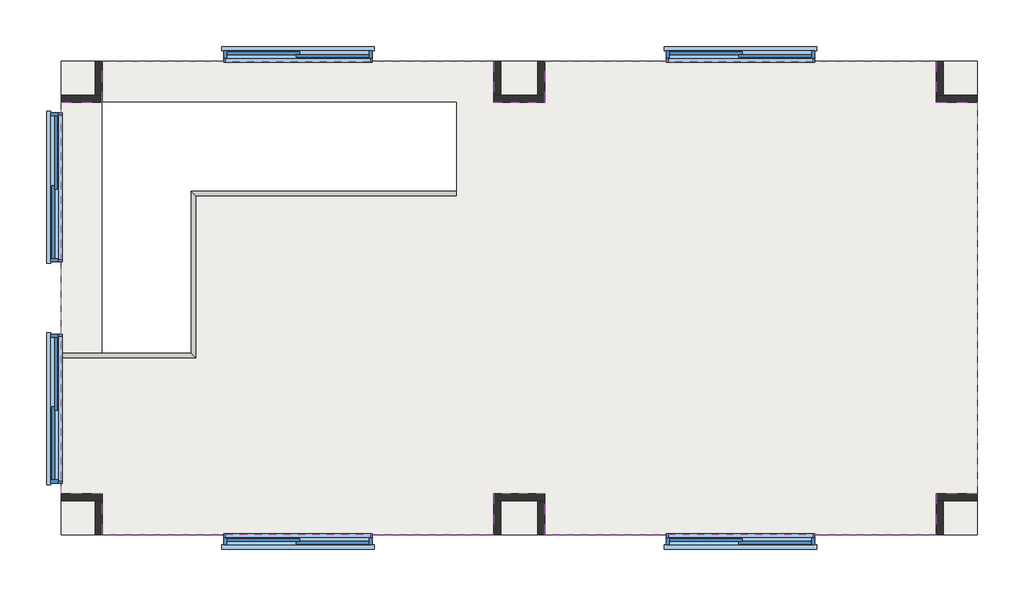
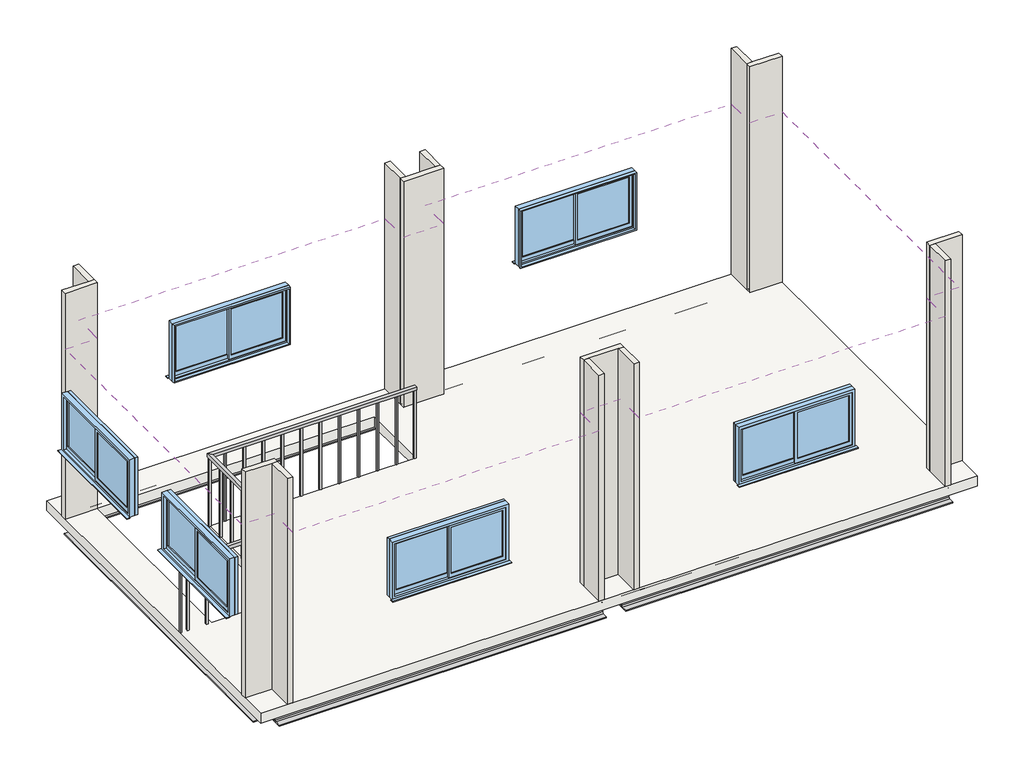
# One storey: 14 walls, 7 beams, 6 windows, 1 covering, 1 railing, 1 slab.
"""IFC4 building model written with IfcOpenShell, lengths in millimetres."""

import ifcopenshell
import ifcopenshell.guid

model = None  # the IFC model being written
_history = None  # IfcOwnerHistory: only IFC2X3 demands one
_inside = {}  # id of a spatial element -> (the spatial element, [elements in it])
_under = {}  # id of a project, library or spatial element -> (it, [spatial elements below it])
_declared = {}  # id of a project -> (the project, [libraries it declares])
_typed = {}  # id of a type object -> (the type object, [elements of that type])
_made_of = {}  # id of a material, layer set ... -> (it, [elements and type objects made of it])


def new_model(schema):
    """Start an empty IFC model of exactly this schema.

    Asked for "IFC4X3", IfcOpenShell would pick the latest addendum, in which some entities
    have other attributes; the version numbers below select the first issue.
    IFC2X3 requires an IfcOwnerHistory on every rooted entity: one is made here for all.
    """
    global model, _history
    if schema == "IFC4X3":
        model = ifcopenshell.file(schema_version=(4, 3, 0, 0))
    else:
        model = ifcopenshell.file(schema=schema)
    _inside.clear()
    _under.clear()
    _declared.clear()
    _typed.clear()
    _made_of.clear()
    _history = None
    if model.schema == "IFC2X3":
        org = make("IfcOrganization", Name="unknown")
        user = make(
            "IfcPersonAndOrganization",
            ThePerson=make("IfcPerson", FamilyName="unknown"),
            TheOrganization=org,
        )
        app = make(
            "IfcApplication",
            ApplicationDeveloper=org,
            Version="unknown",
            ApplicationFullName="unknown",
            ApplicationIdentifier="unknown",
        )
        _history = make(
            "IfcOwnerHistory",
            OwningUser=user,
            OwningApplication=app,
            ChangeAction="ADDED",
            CreationDate=0,
        )
    return model


def make(cls, **values):
    """One entity of the class cls with the attributes given. An attribute that is None is left unset."""
    return model.create_entity(
        cls, **{name: value for name, value in values.items() if value is not None}
    )


def rooted(cls, **values):
    """An entity with a GlobalId (a new one), such as an element, a storey or a relation."""
    return make(cls, GlobalId=ifcopenshell.guid.new(), OwnerHistory=_history, **values)


def si_unit(unit_type, name, prefix=None):
    """IfcSIUnit, for example si_unit("LENGTHUNIT", "METRE", prefix="MILLI")."""
    return make("IfcSIUnit", UnitType=unit_type, Prefix=prefix, Name=name)


def assignment(units):
    """IfcUnitAssignment: the units of a project."""
    return None if units is None else make("IfcUnitAssignment", Units=units)


def point(xyz):
    """IfcCartesianPoint."""
    return None if xyz is None else make("IfcCartesianPoint", Coordinates=xyz)


def direction(xyz):
    """IfcDirection."""
    return None if xyz is None else make("IfcDirection", DirectionRatios=xyz)


def frame(location, z_axis=None, x_axis=None):
    """IfcAxis2Placement3D, a coordinate frame: its origin and axes. An axis left out is left unset."""
    return make(
        "IfcAxis2Placement3D",
        Location=point(location),
        Axis=direction(z_axis),
        RefDirection=direction(x_axis),
    )


def frame_2d(location, x_axis=None):
    """IfcAxis2Placement2D, a coordinate frame in the plane: its origin and x axis."""
    return make(
        "IfcAxis2Placement2D", Location=point(location), RefDirection=direction(x_axis)
    )


def origin():
    """The frame at (0, 0, 0) with its axes left unset."""
    return frame((0.0, 0.0, 0.0))


def place(relative_to, where):
    """IfcLocalPlacement: puts the frame where relative to a parent placement (None: the world)."""
    return make(
        "IfcLocalPlacement", PlacementRelTo=relative_to, RelativePlacement=where
    )


def context(
    kind, dimensions, precision=None, world=None, true_north=None, identifier=None
):
    """IfcGeometricRepresentationContext, for example the 3D "Model" context."""
    return make(
        "IfcGeometricRepresentationContext",
        ContextIdentifier=identifier,
        ContextType=kind,
        CoordinateSpaceDimension=dimensions,
        Precision=precision,
        WorldCoordinateSystem=world,
        TrueNorth=true_north,
    )


def project(units=None, contexts=None):
    """IfcProject with its units and contexts."""
    return rooted(
        "IfcProject",
        Name="project",
        RepresentationContexts=contexts,
        UnitsInContext=assignment(units),
    )


def spatial(cls, under=None, at=None, **own):
    """A site, building, storey or space (cls), placed at a placement, below another one or the project."""
    s = rooted(cls, ObjectPlacement=at, **own)
    if under is not None:
        _under.setdefault(under.id(), (under, []))[1].append(s)
    return s


def polyline(points):
    """IfcPolyline through the points."""
    return make("IfcPolyline", Points=[point(p) for p in points])


def circle_curve(where, radius):
    """IfcCircle in the frame where."""
    return make("IfcCircle", Position=where, Radius=radius)


def trimmed(basis, trim1, trim2, sense, master):
    """IfcTrimmedCurve: the piece of a basis curve between two trims."""
    return make(
        "IfcTrimmedCurve",
        BasisCurve=basis,
        Trim1=trim1,
        Trim2=trim2,
        SenseAgreement=sense,
        MasterRepresentation=master,
    )


def segment(curve, same_sense, transition):
    """IfcCompositeCurveSegment."""
    return make(
        "IfcCompositeCurveSegment",
        Transition=transition,
        SameSense=same_sense,
        ParentCurve=curve,
    )


def composite_curve(segments, self_intersect=None):
    """IfcCompositeCurve: segments joined end to end."""
    return make("IfcCompositeCurve", Segments=segments, SelfIntersect=self_intersect)


def outline(outer, holes=None, kind="AREA"):
    """IfcArbitraryClosedProfileDef: a profile drawn as a closed curve; with holes, ...WithVoids."""
    if holes is None:
        return make("IfcArbitraryClosedProfileDef", ProfileType=kind, OuterCurve=outer)
    return make(
        "IfcArbitraryProfileDefWithVoids",
        ProfileType=kind,
        OuterCurve=outer,
        InnerCurves=holes,
    )


def extrude(swept, where, along, depth):
    """IfcExtrudedAreaSolid: the profile swept, set in the frame where, extruded along a direction by depth."""
    return make(
        "IfcExtrudedAreaSolid",
        SweptArea=swept,
        Position=where,
        ExtrudedDirection=direction(along),
        Depth=depth,
    )


def faces_of(points, faces, orient=None, outer=None):
    """IfcFace entities. A face is a list of loops; a loop is a list of indices into points, from 0.

    orient and outer hold one flag for each loop. By default every Orientation is true, the
    first loop of a face is its IfcFaceOuterBound and the others are IfcFaceBound.
    """
    made = []
    for i, loops in enumerate(faces):
        bounds = []
        for j, loop in enumerate(loops):
            is_outer = j == 0 if outer is None else outer[i][j]
            bounds.append(
                make(
                    "IfcFaceOuterBound" if is_outer else "IfcFaceBound",
                    Bound=make("IfcPolyLoop", Polygon=[points[k] for k in loop]),
                    Orientation=True if orient is None else orient[i][j],
                )
            )
        made.append(make("IfcFace", Bounds=bounds))
    return made


def faceted_brep(points, faces, orient=None, outer=None, voids=None):
    """IfcFacetedBrep: a solid bounded by flat faces; with voids (closed shells), ...WithVoids."""
    shared = [point(p) for p in points]
    hull = make("IfcClosedShell", CfsFaces=faces_of(shared, faces, orient, outer))
    if voids is None:
        return make("IfcFacetedBrep", Outer=hull)
    return make(
        "IfcFacetedBrepWithVoids",
        Outer=hull,
        Voids=[
            make(cls, CfsFaces=faces_of(shared, fs, o, b)) for cls, fs, o, b in voids
        ],
    )


def shape(context_of_items, identifier, shape_type, items):
    """IfcShapeRepresentation: the items that make up one representation, for example the "Body"."""
    return make(
        "IfcShapeRepresentation",
        ContextOfItems=context_of_items,
        RepresentationIdentifier=identifier,
        RepresentationType=shape_type,
        Items=items,
    )


def source(mapping_origin, context_of_items, identifier, shape_type, items):
    """IfcRepresentationMap: a shape defined once, which mapped items show again and again."""
    return make(
        "IfcRepresentationMap",
        MappingOrigin=mapping_origin,
        MappedRepresentation=shape(context_of_items, identifier, shape_type, items),
    )


def transform(
    local_origin,
    x_axis=None,
    y_axis=None,
    z_axis=None,
    scale=None,
    scale2=None,
    scale3=None,
    uniform=True,
):
    """IfcCartesianTransformationOperator3D, or its non-uniform kind. x_axis, y_axis, z_axis: its Axis1, 2, 3."""
    if uniform:
        return make(
            "IfcCartesianTransformationOperator3D",
            Axis1=direction(x_axis),
            Axis2=direction(y_axis),
            LocalOrigin=point(local_origin),
            Scale=scale,
            Axis3=direction(z_axis),
        )
    return make(
        "IfcCartesianTransformationOperator3DnonUniform",
        Axis1=direction(x_axis),
        Axis2=direction(y_axis),
        LocalOrigin=point(local_origin),
        Scale=scale,
        Axis3=direction(z_axis),
        Scale2=scale2,
        Scale3=scale3,
    )


def mapped(mapping_source, mapping_target):
    """IfcMappedItem: shows the shape of a source again, moved by a transform."""
    return make(
        "IfcMappedItem", MappingSource=mapping_source, MappingTarget=mapping_target
    )


def made_of(thing, what):
    """Note that an element or type object is made of a material, layer set ...; save() writes the relation."""
    if what is not None:
        _made_of.setdefault(what.id(), (what, []))[1].append(thing)
    return thing


def element(
    cls,
    number,
    at=None,
    inside=None,
    cuts=None,
    type_object=None,
    material=None,
    context=None,
    identifier="Body",
    shape_type=None,
    held_by="IfcProductDefinitionShape",
    body=None,
    shapes=None,
    **own,
):
    """One element of the class cls, such as IfcWall. Its Tag is "e" and its number.

    at: its placement. inside: the storey or other place that contains it. cuts: it is an
    opening in that element (IfcRelVoidsElement). A single representation is given by context,
    identifier, shape_type and body (its items); several are given by shapes. held_by: the class
    of the entity that holds the representations. save() writes the other relations.
    """
    e = rooted(cls, Tag="e%d" % number, ObjectPlacement=at, **own)
    if body is not None:
        shapes = [shape(context, identifier, shape_type, body)]
    if shapes is not None:
        e.Representation = make(held_by, Representations=shapes)
    if inside is not None:
        _inside.setdefault(inside.id(), (inside, []))[1].append(e)
    if cuts is not None:
        rooted(
            "IfcRelVoidsElement", RelatingBuildingElement=cuts, RelatedOpeningElement=e
        )
    if type_object is not None:
        _typed.setdefault(type_object.id(), (type_object, []))[1].append(e)
    return made_of(e, material)


def aggregate(whole, parts):
    """IfcRelAggregates: a whole, such as a stair, and the parts it consists of."""
    return rooted("IfcRelAggregates", RelatingObject=whole, RelatedObjects=parts)


def save(model, path):
    """Write the relations noted so far, then the file.

    IfcRelAggregates (storeys below a building ...), IfcRelContainedInSpatialStructure (elements
    in a storey), IfcRelDefinesByType, IfcRelAssociatesMaterial and IfcRelDeclares: one each for
    every whole, place, type object, material and project.
    """
    for whole, parts in _under.values():
        aggregate(whole, parts)
    for where, things in _inside.values():
        rooted(
            "IfcRelContainedInSpatialStructure",
            RelatedElements=things,
            RelatingStructure=where,
        )
    for kind, things in _typed.values():
        rooted("IfcRelDefinesByType", RelatedObjects=things, RelatingType=kind)
    for what, things in _made_of.values():
        rooted("IfcRelAssociatesMaterial", RelatedObjects=things, RelatingMaterial=what)
    for by, libraries in _declared.values():
        rooted("IfcRelDeclares", RelatingContext=by, RelatedDefinitions=libraries)
    model.write(path)


def heb200_d26bcb9a(model_context):
    return source(origin(), model_context, "Body", "SweptSolid", [
        extrude(outline(composite_curve([segment(polyline([(100.0, -85.0), (100.0, -100.0), (-100.0, -100.0), (-100.0, -85.0), (-22.5, -85.0)]), True, "CONTINUOUS"), segment(trimmed(circle_curve(frame_2d((-22.5, -67.0)), 18.0), [point((-22.5, -85.0))], [point((-4.5, -67.0))], True, "CARTESIAN"), True, "CONTINUOUS"), segment(polyline([(-4.5, -67.0), (-4.5, 67.0)]), True, "CONTINUOUS"), segment(trimmed(circle_curve(frame_2d((-22.5, 67.0)), 18.0), [point((-4.5, 67.0))], [point((-22.5, 85.0))], True, "CARTESIAN"), True, "CONTINUOUS"), segment(polyline([(-22.5, 85.0), (-100.0, 85.0), (-100.0, 100.0), (100.0, 100.0), (100.0, 85.0), (22.5, 85.0)]), True, "CONTINUOUS"), segment(trimmed(circle_curve(frame_2d((22.5, 67.0)), 18.0), [point((22.5, 85.0))], [point((4.5, 67.0))], True, "CARTESIAN"), True, "CONTINUOUS"), segment(polyline([(4.5, 67.0), (4.5, -67.0)]), True, "CONTINUOUS"), segment(trimmed(circle_curve(frame_2d((22.5, -67.0)), 18.0), [point((4.5, -67.0))], [point((22.5, -85.0))], True, "CARTESIAN"), True, "CONTINUOUS"), segment(polyline([(22.5, -85.0), (100.0, -85.0)]), True, "CONTINUOUS")], self_intersect=False)), frame((-2362.3, 0.0, 0.0), z_axis=(1.0, 0.0, 0.0), x_axis=(0.0, 1.0, 0.0)), (0.0, 0.0, 1.0), 4724.6),
    ])


def w1600h0800_d7cd19be(model_context):
    return source(origin(), model_context, "Body", "SweptSolid", [
        extrude(outline(polyline([(-20.0, 12.5), (-760.0, 12.5), (-760.0, 17.5), (-20.0, 17.5), (-20.0, 12.5)])), frame((0.0, 0.0, 1260.0), z_axis=(0.0, 0.0, 1.0), x_axis=(1.0, 0.0, 0.0)), (0.0, 0.0, 1.0), 700.0),
        extrude(outline(polyline([(760.0, -17.5), (20.0, -17.5), (20.0, -12.5), (760.0, -12.5), (760.0, -17.5)])), frame((0.0, 0.0, 1260.0), z_axis=(0.0, 0.0, 1.0), x_axis=(1.0, 0.0, 0.0)), (0.0, 0.0, 1.0), 700.0),
        extrude(outline(polyline([(2000.0, -20.0), (1200.0, -20.0), (1200.0, 800.0), (2000.0, 800.0), (2000.0, -20.0)]), holes=[polyline([(1260.0, 760.0), (1260.0, 20.0), (1960.0, 20.0), (1960.0, 760.0), (1260.0, 760.0)])]), frame((0.0, -30.0, 0.0), z_axis=(0.0, 1.0, 0.0), x_axis=(0.0, 0.0, 1.0)), (0.0, 0.0, 1.0), 30.0),
        extrude(outline(polyline([(2000.0, -800.0), (1200.0, -800.0), (1200.0, 20.0), (2000.0, 20.0), (2000.0, -800.0)]), holes=[polyline([(1260.0, -20.0), (1260.0, -760.0), (1960.0, -760.0), (1960.0, -20.0), (1260.0, -20.0)])]), frame((0.0, 0.0, 0.0), z_axis=(0.0, 1.0, 0.0), x_axis=(0.0, 0.0, 1.0)), (0.0, 0.0, 1.0), 30.0),
        extrude(outline(polyline([(860.0, 90.0), (860.0, 40.0), (-860.0, 40.0), (-860.0, 90.0), (860.0, 90.0)])), frame((0.0, 0.0, 1160.0), z_axis=(0.0, 0.0, 1.0), x_axis=(1.0, 0.0, 0.0)), (0.0, 0.0, 1.0), 10.0),
        extrude(outline(polyline([(2040.0, 840.0), (2040.0, -840.0), (1160.0, -840.0), (1160.0, 840.0), (2040.0, 840.0)]), holes=[polyline([(1180.0, -820.0), (2020.0, -820.0), (2020.0, 820.0), (1180.0, 820.0), (1180.0, -820.0)])]), frame((0.0, -85.0, 0.0), z_axis=(0.0, 1.0, 0.0), x_axis=(0.0, 0.0, 1.0)), (0.0, 0.0, 1.0), 45.0),
        extrude(outline(polyline([(2040.0, -840.0), (1160.0, -840.0), (1160.0, 840.0), (2040.0, 840.0), (2040.0, -840.0)]), holes=[polyline([(2000.0, 800.0), (1200.0, 800.0), (1200.0, -800.0), (2000.0, -800.0), (2000.0, 800.0)])]), frame((0.0, -40.0, 0.0), z_axis=(0.0, 1.0, 0.0), x_axis=(0.0, 0.0, 1.0)), (0.0, 0.0, 1.0), 80.0),
    ])


model = new_model("IFC4")

# Units and contexts
model_context = context("Model", 3, world=origin())
ifc_project = project(units=[si_unit("LENGTHUNIT", "METRE", prefix="MILLI")], contexts=[model_context])

# Site, building, storey
site = spatial("IfcSite", under=ifc_project)
building = spatial("IfcBuilding", under=site)
storey = spatial("IfcBuildingStorey", under=building, Name="2階", Elevation=3800.0)

# Beams
placement = place(None, origin())
heb200_shape = heb200_d26bcb9a(model_context)
element("IfcBeam", 1, ObjectType="HE-B : HEB200", at=placement, inside=storey, context=model_context, shape_type="MappedRepresentation", body=[
    mapped(heb200_shape, transform((-5047.3880564, 86.0382733, 3550.0), x_axis=(0.0, -1.0, 0.0), y_axis=(1.0, 0.0, 0.0), z_axis=(0.0, 0.0, 1.0))),
])
element("IfcBeam", 2, ObjectType="HE-B : HEB200", at=placement, inside=storey, context=model_context, shape_type="MappedRepresentation", body=[
    mapped(heb200_shape, transform((-47.3880564, 86.0382733, 3550.0), x_axis=(0.0, -1.0, 0.0), y_axis=(1.0, 0.0, 0.0), z_axis=(0.0, 0.0, 1.0))),
])
element("IfcBeam", 3, ObjectType="HE-B : HEB200", at=placement, inside=storey, context=model_context, shape_type="MappedRepresentation", body=[
    mapped(heb200_shape, transform((4952.6119436, 86.0382733, 3550.0), x_axis=(0.0, -1.0, 0.0), y_axis=(1.0, 0.0, 0.0), z_axis=(0.0, 0.0, 1.0))),
])
element("IfcBeam", 4, ObjectType="HE-B : HEB200", at=placement, inside=storey, context=model_context, shape_type="MappedRepresentation", body=[
    mapped(heb200_shape, transform((2452.6119436, -2413.9617267, 3550.0), x_axis=(-1.0, 0.0, 0.0), y_axis=(0.0, -1.0, 0.0), z_axis=(0.0, 0.0, 1.0))),
])
element("IfcBeam", 5, ObjectType="HE-B : HEB200", at=placement, inside=storey, context=model_context, shape_type="MappedRepresentation", body=[
    mapped(heb200_shape, transform((-2547.3880564, -2413.9617267, 3550.0), x_axis=(-1.0, 0.0, 0.0), y_axis=(0.0, -1.0, 0.0), z_axis=(0.0, 0.0, 1.0))),
])
element("IfcBeam", 6, ObjectType="HE-B : HEB200", at=placement, inside=storey, context=model_context, shape_type="MappedRepresentation", body=[
    mapped(heb200_shape, transform((2452.6119436, 2586.0382733, 3550.0), x_axis=(-1.0, 0.0, 0.0), y_axis=(0.0, -1.0, 0.0), z_axis=(0.0, 0.0, 1.0))),
])
element("IfcBeam", 7, ObjectType="HE-B : HEB200", at=placement, inside=storey, context=model_context, shape_type="MappedRepresentation", body=[
    mapped(heb200_shape, transform((-2547.3880564, 2586.0382733, 3550.0), x_axis=(-1.0, 0.0, 0.0), y_axis=(0.0, -1.0, 0.0), z_axis=(0.0, 0.0, 1.0))),
])

# Covering
element("IfcCovering", 8, ObjectType="グリッド 600x600mm", at=placement, inside=storey, context=model_context, shape_type="SweptSolid", body=[
    extrude(outline(polyline([(-4757.8880564, 2296.5382733), (-4757.8880564, 2761.0382733), (-336.8880564, 2761.0382733), (-336.8880564, 2296.5382733), (242.1119436, 2296.5382733), (242.1119436, 2761.0382733), (4663.1119436, 2761.0382733), (4663.1119436, 2296.5382733), (5127.6119436, 2296.5382733), (5127.6119436, -2124.4617267), (4663.1119436, -2124.4617267), (4663.1119436, -2588.9617267), (242.1119436, -2588.9617267), (242.1119436, -2124.4617267), (-336.8880564, -2124.4617267), (-336.8880564, -2588.9617267), (-4757.8880564, -2588.9617267), (-4757.8880564, -2124.4617267), (-5222.3880564, -2124.4617267), (-5222.3880564, 2296.5382733), (-4757.8880564, 2296.5382733)])), frame((0.0, 0.0, 6400.0), z_axis=(0.0, 0.0, 1.0), x_axis=(1.0, 0.0, 0.0)), (0.0, 0.0, 1.0), 52.0),
])

# Railing
element("IfcRailing", 9, ObjectType="1100mm", at=placement, inside=storey, context=model_context, shape_type="SolidModel", body=[
    faceted_brep([(-757.3880564, 1241.5382733, 4900.0), (-757.3880564, 1241.5382733, 4850.0), (-757.3880564, 1291.5382733, 4850.0), (-757.3880564, 1291.5382733, 4900.0), (-3702.8880564, 1241.5382733, 4900.0), (-3702.8880564, 1241.5382733, 4850.0), (-3752.8880564, 1291.5382733, 4850.0), (-3752.8880564, 1291.5382733, 4900.0), (-3702.8880564, -588.9617267, 4900.0), (-3702.8880564, -588.9617267, 4850.0), (-3752.8880564, -538.9617267, 4850.0), (-3752.8880564, -538.9617267, 4900.0), (-5222.3880564, -588.9617267, 4900.0), (-5222.3880564, -538.9617267, 4900.0), (-5222.3880564, -538.9617267, 4850.0), (-5222.3880564, -588.9617267, 4850.0)], [[[0, 1, 2, 3]], [[1, 0, 4, 5]], [[2, 1, 5, 6]], [[3, 2, 6, 7]], [[0, 3, 7, 4]], [[5, 4, 8, 9]], [[6, 5, 9, 10]], [[7, 6, 10, 11]], [[4, 7, 11, 8]], [[12, 13, 14, 15]], [[9, 8, 12, 15]], [[10, 9, 15, 14]], [[11, 10, 14, 13]], [[8, 11, 13, 12]]]),
    extrude(outline(polyline([(-5090.3880564, -551.4617267), (-5090.3880564, -576.4617267), (-5115.3880564, -576.4617267), (-5115.3880564, -551.4617267), (-5090.3880564, -551.4617267)])), frame((0.0, 0.0, 3800.0), z_axis=(0.0, 0.0, 1.0), x_axis=(1.0, 0.0, 0.0)), (0.0, 0.0, 1.0), 1050.0),
    extrude(outline(polyline([(-4815.3880564, -551.4617267), (-4815.3880564, -576.4617267), (-4840.3880564, -576.4617267), (-4840.3880564, -551.4617267), (-4815.3880564, -551.4617267)])), frame((0.0, 0.0, 3800.0), z_axis=(0.0, 0.0, 1.0), x_axis=(1.0, 0.0, 0.0)), (0.0, 0.0, 1.0), 1050.0),
    extrude(outline(polyline([(-4540.3880564, -551.4617267), (-4540.3880564, -576.4617267), (-4565.3880564, -576.4617267), (-4565.3880564, -551.4617267), (-4540.3880564, -551.4617267)])), frame((0.0, 0.0, 3800.0), z_axis=(0.0, 0.0, 1.0), x_axis=(1.0, 0.0, 0.0)), (0.0, 0.0, 1.0), 1050.0),
    extrude(outline(polyline([(-4265.3880564, -551.4617267), (-4265.3880564, -576.4617267), (-4290.3880564, -576.4617267), (-4290.3880564, -551.4617267), (-4265.3880564, -551.4617267)])), frame((0.0, 0.0, 3800.0), z_axis=(0.0, 0.0, 1.0), x_axis=(1.0, 0.0, 0.0)), (0.0, 0.0, 1.0), 1050.0),
    extrude(outline(polyline([(-3990.3880564, -551.4617267), (-3990.3880564, -576.4617267), (-4015.3880564, -576.4617267), (-4015.3880564, -551.4617267), (-3990.3880564, -551.4617267)])), frame((0.0, 0.0, 3800.0), z_axis=(0.0, 0.0, 1.0), x_axis=(1.0, 0.0, 0.0)), (0.0, 0.0, 1.0), 1050.0),
    extrude(outline(polyline([(-3740.3880564, -370.9617267), (-3715.3880564, -370.9617267), (-3715.3880564, -395.9617267), (-3740.3880564, -395.9617267), (-3740.3880564, -370.9617267)])), frame((0.0, 0.0, 3800.0), z_axis=(0.0, 0.0, 1.0), x_axis=(1.0, 0.0, 0.0)), (0.0, 0.0, 1.0), 1050.0),
    extrude(outline(polyline([(-3740.3880564, -95.9617267), (-3715.3880564, -95.9617267), (-3715.3880564, -120.9617267), (-3740.3880564, -120.9617267), (-3740.3880564, -95.9617267)])), frame((0.0, 0.0, 3800.0), z_axis=(0.0, 0.0, 1.0), x_axis=(1.0, 0.0, 0.0)), (0.0, 0.0, 1.0), 1050.0),
    extrude(outline(polyline([(-3740.3880564, 179.0382733), (-3715.3880564, 179.0382733), (-3715.3880564, 154.0382733), (-3740.3880564, 154.0382733), (-3740.3880564, 179.0382733)])), frame((0.0, 0.0, 3800.0), z_axis=(0.0, 0.0, 1.0), x_axis=(1.0, 0.0, 0.0)), (0.0, 0.0, 1.0), 1050.0),
    extrude(outline(polyline([(-3740.3880564, 454.0382733), (-3715.3880564, 454.0382733), (-3715.3880564, 429.0382733), (-3740.3880564, 429.0382733), (-3740.3880564, 454.0382733)])), frame((0.0, 0.0, 3800.0), z_axis=(0.0, 0.0, 1.0), x_axis=(1.0, 0.0, 0.0)), (0.0, 0.0, 1.0), 1050.0),
    extrude(outline(polyline([(-3740.3880564, 729.0382733), (-3715.3880564, 729.0382733), (-3715.3880564, 704.0382733), (-3740.3880564, 704.0382733), (-3740.3880564, 729.0382733)])), frame((0.0, 0.0, 3800.0), z_axis=(0.0, 0.0, 1.0), x_axis=(1.0, 0.0, 0.0)), (0.0, 0.0, 1.0), 1050.0),
    extrude(outline(polyline([(-3740.3880564, 1004.0382733), (-3715.3880564, 1004.0382733), (-3715.3880564, 979.0382733), (-3740.3880564, 979.0382733), (-3740.3880564, 1004.0382733)])), frame((0.0, 0.0, 3800.0), z_axis=(0.0, 0.0, 1.0), x_axis=(1.0, 0.0, 0.0)), (0.0, 0.0, 1.0), 1050.0),
    extrude(outline(polyline([(-3494.8880564, 1279.0382733), (-3494.8880564, 1254.0382733), (-3519.8880564, 1254.0382733), (-3519.8880564, 1279.0382733), (-3494.8880564, 1279.0382733)])), frame((0.0, 0.0, 3800.0), z_axis=(0.0, 0.0, 1.0), x_axis=(1.0, 0.0, 0.0)), (0.0, 0.0, 1.0), 1050.0),
    extrude(outline(polyline([(-3219.8880564, 1279.0382733), (-3219.8880564, 1254.0382733), (-3244.8880564, 1254.0382733), (-3244.8880564, 1279.0382733), (-3219.8880564, 1279.0382733)])), frame((0.0, 0.0, 3800.0), z_axis=(0.0, 0.0, 1.0), x_axis=(1.0, 0.0, 0.0)), (0.0, 0.0, 1.0), 1050.0),
    extrude(outline(polyline([(-2944.8880564, 1279.0382733), (-2944.8880564, 1254.0382733), (-2969.8880564, 1254.0382733), (-2969.8880564, 1279.0382733), (-2944.8880564, 1279.0382733)])), frame((0.0, 0.0, 3800.0), z_axis=(0.0, 0.0, 1.0), x_axis=(1.0, 0.0, 0.0)), (0.0, 0.0, 1.0), 1050.0),
    extrude(outline(polyline([(-2669.8880564, 1279.0382733), (-2669.8880564, 1254.0382733), (-2694.8880564, 1254.0382733), (-2694.8880564, 1279.0382733), (-2669.8880564, 1279.0382733)])), frame((0.0, 0.0, 3800.0), z_axis=(0.0, 0.0, 1.0), x_axis=(1.0, 0.0, 0.0)), (0.0, 0.0, 1.0), 1050.0),
    extrude(outline(polyline([(-2394.8880564, 1279.0382733), (-2394.8880564, 1254.0382733), (-2419.8880564, 1254.0382733), (-2419.8880564, 1279.0382733), (-2394.8880564, 1279.0382733)])), frame((0.0, 0.0, 3800.0), z_axis=(0.0, 0.0, 1.0), x_axis=(1.0, 0.0, 0.0)), (0.0, 0.0, 1.0), 1050.0),
    extrude(outline(polyline([(-2119.8880564, 1279.0382733), (-2119.8880564, 1254.0382733), (-2144.8880564, 1254.0382733), (-2144.8880564, 1279.0382733), (-2119.8880564, 1279.0382733)])), frame((0.0, 0.0, 3800.0), z_axis=(0.0, 0.0, 1.0), x_axis=(1.0, 0.0, 0.0)), (0.0, 0.0, 1.0), 1050.0),
    extrude(outline(polyline([(-1844.8880564, 1279.0382733), (-1844.8880564, 1254.0382733), (-1869.8880564, 1254.0382733), (-1869.8880564, 1279.0382733), (-1844.8880564, 1279.0382733)])), frame((0.0, 0.0, 3800.0), z_axis=(0.0, 0.0, 1.0), x_axis=(1.0, 0.0, 0.0)), (0.0, 0.0, 1.0), 1050.0),
    extrude(outline(polyline([(-1569.8880564, 1279.0382733), (-1569.8880564, 1254.0382733), (-1594.8880564, 1254.0382733), (-1594.8880564, 1279.0382733), (-1569.8880564, 1279.0382733)])), frame((0.0, 0.0, 3800.0), z_axis=(0.0, 0.0, 1.0), x_axis=(1.0, 0.0, 0.0)), (0.0, 0.0, 1.0), 1050.0),
    extrude(outline(polyline([(-1294.8880564, 1279.0382733), (-1294.8880564, 1254.0382733), (-1319.8880564, 1254.0382733), (-1319.8880564, 1279.0382733), (-1294.8880564, 1279.0382733)])), frame((0.0, 0.0, 3800.0), z_axis=(0.0, 0.0, 1.0), x_axis=(1.0, 0.0, 0.0)), (0.0, 0.0, 1.0), 1050.0),
    extrude(outline(polyline([(-1019.8880564, 1279.0382733), (-1019.8880564, 1254.0382733), (-1044.8880564, 1254.0382733), (-1044.8880564, 1279.0382733), (-1019.8880564, 1279.0382733)])), frame((0.0, 0.0, 3800.0), z_axis=(0.0, 0.0, 1.0), x_axis=(1.0, 0.0, 0.0)), (0.0, 0.0, 1.0), 1050.0),
    extrude(outline(polyline([(-3740.3880564, -551.4617267), (-3715.3880564, -551.4617267), (-3715.3880564, -576.4617267), (-3740.3880564, -576.4617267), (-3740.3880564, -551.4617267)])), frame((0.0, 0.0, 3800.0), z_axis=(0.0, 0.0, 1.0), x_axis=(1.0, 0.0, 0.0)), (0.0, 0.0, 1.0), 1050.0),
    extrude(outline(polyline([(-3715.3880564, 1279.0382733), (-3715.3880564, 1254.0382733), (-3740.3880564, 1254.0382733), (-3740.3880564, 1279.0382733), (-3715.3880564, 1279.0382733)])), frame((0.0, 0.0, 3800.0), z_axis=(0.0, 0.0, 1.0), x_axis=(1.0, 0.0, 0.0)), (0.0, 0.0, 1.0), 1050.0),
    extrude(outline(polyline([(-5197.3880564, -551.4617267), (-5197.3880564, -576.4617267), (-5222.3880564, -576.4617267), (-5222.3880564, -551.4617267), (-5197.3880564, -551.4617267)])), frame((0.0, 0.0, 3800.0), z_axis=(0.0, 0.0, 1.0), x_axis=(1.0, 0.0, 0.0)), (0.0, 0.0, 1.0), 1050.0),
    extrude(outline(polyline([(-757.3880564, 1279.0382733), (-757.3880564, 1254.0382733), (-782.3880564, 1254.0382733), (-782.3880564, 1279.0382733), (-757.3880564, 1279.0382733)])), frame((0.0, 0.0, 3800.0), z_axis=(0.0, 0.0, 1.0), x_axis=(1.0, 0.0, 0.0)), (0.0, 0.0, 1.0), 1050.0),
])

# Slab
element("IfcSlab", 10, ObjectType="一般 150 mm", at=placement, inside=storey, context=model_context, shape_type="SweptSolid", body=[
    extrude(outline(polyline([(5127.6119436, 2761.0382733), (5127.6119436, -2588.9617267), (-5222.3880564, -2588.9617267), (-5222.3880564, 2761.0382733), (5127.6119436, 2761.0382733)]), holes=[polyline([(-3727.8880564, 1266.5382733), (-757.3880564, 1266.5382733), (-757.3880564, 2296.5382733), (-4757.8880564, 2296.5382733), (-4757.8880564, -563.9617267), (-3727.8880564, -563.9617267), (-3727.8880564, 1266.5382733)])]), frame((0.0, 0.0, 3650.0), z_axis=(0.0, 0.0, 1.0), x_axis=(1.0, 0.0, 0.0)), (0.0, 0.0, 1.0), 150.0),
])

# Walls
element("IfcWall", 11, ObjectType="内壁-79mm 間仕切り(1時間)", at=placement, inside=storey, context=model_context, shape_type="SweptSolid", body=[
    extrude(outline(polyline([(-4836.8880564, 2375.5382733), (-4836.8880564, 2761.0382733), (-4757.8880564, 2761.0382733), (-4757.8880564, 2375.5382733), (-4836.8880564, 2375.5382733)])), frame((0.0, 0.0, 3800.0), z_axis=(0.0, 0.0, 1.0), x_axis=(1.0, 0.0, 0.0)), (0.0, 0.0, 1.0), 3450.0),
])
element("IfcWall", 12, ObjectType="内壁-79mm 間仕切り(1時間)", at=placement, inside=storey, context=model_context, shape_type="Brep", body=[
    faceted_brep([(-4757.8880564, 2375.5382733, 3800.0), (-4836.8880564, 2375.5382733, 3800.0), (-5222.3880564, 2375.5382733, 3800.0), (-5222.3880564, 2375.5382733, 7250.0), (-4836.8880564, 2375.5382733, 7250.0), (-4757.8880564, 2375.5382733, 7250.0), (-4757.8880564, 2296.5382733, 3800.0), (-4757.8880564, 2296.5382733, 7250.0), (-5222.3880564, 2296.5382733, 7250.0), (-5222.3880564, 2296.5382733, 3800.0)], [[[0, 1, 2, 3, 4, 5]], [[6, 7, 8, 9]], [[2, 1, 0, 6, 9]], [[5, 4, 3, 8, 7]], [[0, 5, 7, 6]], [[3, 2, 9, 8]]]),
])
element("IfcWall", 13, ObjectType="内壁-79mm 間仕切り(1時間)", at=placement, inside=storey, context=model_context, shape_type="SweptSolid", body=[
    extrude(outline(polyline([(163.1119436, 2375.5382733), (163.1119436, 2761.0382733), (242.1119436, 2761.0382733), (242.1119436, 2375.5382733), (163.1119436, 2375.5382733)])), frame((0.0, 0.0, 3800.0), z_axis=(0.0, 0.0, 1.0), x_axis=(1.0, 0.0, 0.0)), (0.0, 0.0, 1.0), 3450.0),
])
element("IfcWall", 14, ObjectType="内壁-79mm 間仕切り(1時間)", at=placement, inside=storey, context=model_context, shape_type="Brep", body=[
    faceted_brep([(242.1119436, 2375.5382733, 3800.0), (163.1119436, 2375.5382733, 3800.0), (-257.8880564, 2375.5382733, 3800.0), (-336.8880564, 2375.5382733, 3800.0), (-336.8880564, 2375.5382733, 7250.0), (-257.8880564, 2375.5382733, 7250.0), (163.1119436, 2375.5382733, 7250.0), (242.1119436, 2375.5382733, 7250.0), (242.1119436, 2296.5382733, 3800.0), (242.1119436, 2296.5382733, 7250.0), (-336.8880564, 2296.5382733, 7250.0), (-336.8880564, 2296.5382733, 3800.0)], [[[0, 1, 2, 3, 4, 5, 6, 7]], [[8, 9, 10, 11]], [[3, 2, 1, 0, 8, 11]], [[7, 6, 5, 4, 10, 9]], [[0, 7, 9, 8]], [[4, 3, 11, 10]]]),
])
element("IfcWall", 15, ObjectType="内壁-79mm 間仕切り(1時間)", at=placement, inside=storey, context=model_context, shape_type="SweptSolid", body=[
    extrude(outline(polyline([(-257.8880564, 2761.0382733), (-257.8880564, 2375.5382733), (-336.8880564, 2375.5382733), (-336.8880564, 2761.0382733), (-257.8880564, 2761.0382733)])), frame((0.0, 0.0, 3800.0), z_axis=(0.0, 0.0, 1.0), x_axis=(1.0, 0.0, 0.0)), (0.0, 0.0, 1.0), 3450.0),
])
element("IfcWall", 16, ObjectType="内壁-79mm 間仕切り(1時間)", at=placement, inside=storey, context=model_context, shape_type="SweptSolid", body=[
    extrude(outline(polyline([(4663.1119436, 2375.5382733), (4663.1119436, 2761.0382733), (4742.1119436, 2761.0382733), (4742.1119436, 2375.5382733), (4663.1119436, 2375.5382733)])), frame((0.0, 0.0, 3800.0), z_axis=(0.0, 0.0, 1.0), x_axis=(1.0, 0.0, 0.0)), (0.0, 0.0, 1.0), 3450.0),
])
element("IfcWall", 17, ObjectType="内壁-79mm 間仕切り(1時間)", at=placement, inside=storey, context=model_context, shape_type="Brep", body=[
    faceted_brep([(4663.1119436, 2296.5382733, 3800.0), (5127.6119436, 2296.5382733, 3800.0), (5127.6119436, 2296.5382733, 7250.0), (4663.1119436, 2296.5382733, 7250.0), (4663.1119436, 2375.5382733, 3800.0), (4663.1119436, 2375.5382733, 7250.0), (4742.1119436, 2375.5382733, 7250.0), (5127.6119436, 2375.5382733, 7250.0), (5127.6119436, 2375.5382733, 3800.0), (4742.1119436, 2375.5382733, 3800.0)], [[[0, 1, 2, 3]], [[4, 5, 6, 7, 8, 9]], [[1, 0, 4, 9, 8]], [[3, 2, 7, 6, 5]], [[0, 3, 5, 4]], [[2, 1, 8, 7]]]),
])
element("IfcWall", 18, ObjectType="内壁-79mm 間仕切り(1時間)", at=placement, inside=storey, context=model_context, shape_type="SweptSolid", body=[
    extrude(outline(polyline([(-4757.8880564, -2203.4617267), (-4757.8880564, -2588.9617267), (-4836.8880564, -2588.9617267), (-4836.8880564, -2203.4617267), (-4757.8880564, -2203.4617267)])), frame((0.0, 0.0, 3800.0), z_axis=(0.0, 0.0, 1.0), x_axis=(1.0, 0.0, 0.0)), (0.0, 0.0, 1.0), 3450.0),
])
element("IfcWall", 19, ObjectType="内壁-79mm 間仕切り(1時間)", at=placement, inside=storey, context=model_context, shape_type="Brep", body=[
    faceted_brep([(-4757.8880564, -2124.4617267, 3800.0), (-5222.3880564, -2124.4617267, 3800.0), (-5222.3880564, -2124.4617267, 7250.0), (-4757.8880564, -2124.4617267, 7250.0), (-4757.8880564, -2203.4617267, 3800.0), (-4757.8880564, -2203.4617267, 7250.0), (-4836.8880564, -2203.4617267, 7250.0), (-5222.3880564, -2203.4617267, 7250.0), (-5222.3880564, -2203.4617267, 3800.0), (-4836.8880564, -2203.4617267, 3800.0)], [[[0, 1, 2, 3]], [[4, 5, 6, 7, 8, 9]], [[1, 0, 4, 9, 8]], [[3, 2, 7, 6, 5]], [[0, 3, 5, 4]], [[2, 1, 8, 7]]]),
])
element("IfcWall", 20, ObjectType="内壁-79mm 間仕切り(1時間)", at=placement, inside=storey, context=model_context, shape_type="SweptSolid", body=[
    extrude(outline(polyline([(242.1119436, -2203.4617267), (242.1119436, -2588.9617267), (163.1119436, -2588.9617267), (163.1119436, -2203.4617267), (242.1119436, -2203.4617267)])), frame((0.0, 0.0, 3800.0), z_axis=(0.0, 0.0, 1.0), x_axis=(1.0, 0.0, 0.0)), (0.0, 0.0, 1.0), 3450.0),
])
element("IfcWall", 21, ObjectType="内壁-79mm 間仕切り(1時間)", at=placement, inside=storey, context=model_context, shape_type="Brep", body=[
    faceted_brep([(242.1119436, -2124.4617267, 3800.0), (-336.8880564, -2124.4617267, 3800.0), (-336.8880564, -2124.4617267, 7250.0), (242.1119436, -2124.4617267, 7250.0), (242.1119436, -2203.4617267, 3800.0), (242.1119436, -2203.4617267, 7250.0), (163.1119436, -2203.4617267, 7250.0), (-257.8880564, -2203.4617267, 7250.0), (-336.8880564, -2203.4617267, 7250.0), (-336.8880564, -2203.4617267, 3800.0), (-257.8880564, -2203.4617267, 3800.0), (163.1119436, -2203.4617267, 3800.0)], [[[0, 1, 2, 3]], [[4, 5, 6, 7, 8, 9, 10, 11]], [[1, 0, 4, 11, 10, 9]], [[3, 2, 8, 7, 6, 5]], [[0, 3, 5, 4]], [[2, 1, 9, 8]]]),
])
element("IfcWall", 22, ObjectType="内壁-79mm 間仕切り(1時間)", at=placement, inside=storey, context=model_context, shape_type="SweptSolid", body=[
    extrude(outline(polyline([(-336.8880564, -2588.9617267), (-336.8880564, -2203.4617267), (-257.8880564, -2203.4617267), (-257.8880564, -2588.9617267), (-336.8880564, -2588.9617267)])), frame((0.0, 0.0, 3800.0), z_axis=(0.0, 0.0, 1.0), x_axis=(1.0, 0.0, 0.0)), (0.0, 0.0, 1.0), 3450.0),
])
element("IfcWall", 23, ObjectType="内壁-79mm 間仕切り(1時間)", at=placement, inside=storey, context=model_context, shape_type="SweptSolid", body=[
    extrude(outline(polyline([(4742.1119436, -2203.4617267), (4742.1119436, -2588.9617267), (4663.1119436, -2588.9617267), (4663.1119436, -2203.4617267), (4742.1119436, -2203.4617267)])), frame((0.0, 0.0, 3800.0), z_axis=(0.0, 0.0, 1.0), x_axis=(1.0, 0.0, 0.0)), (0.0, 0.0, 1.0), 3450.0),
])
element("IfcWall", 24, ObjectType="内壁-79mm 間仕切り(1時間)", at=placement, inside=storey, context=model_context, shape_type="Brep", body=[
    faceted_brep([(4663.1119436, -2203.4617267, 3800.0), (4742.1119436, -2203.4617267, 3800.0), (5127.6119436, -2203.4617267, 3800.0), (5127.6119436, -2203.4617267, 7250.0), (4742.1119436, -2203.4617267, 7250.0), (4663.1119436, -2203.4617267, 7250.0), (4663.1119436, -2124.4617267, 3800.0), (4663.1119436, -2124.4617267, 7250.0), (5127.6119436, -2124.4617267, 7250.0), (5127.6119436, -2124.4617267, 3800.0)], [[[0, 1, 2, 3, 4, 5]], [[6, 7, 8, 9]], [[2, 1, 0, 6, 9]], [[5, 4, 3, 8, 7]], [[0, 5, 7, 6]], [[3, 2, 9, 8]]]),
])

# Windows
w1600h0800_shape = w1600h0800_d7cd19be(model_context)
element("IfcWindow", 25, ObjectType="引違い腰窓_2枚 : w1600h0800", at=placement, inside=storey, context=model_context, shape_type="MappedRepresentation", body=[
    mapped(w1600h0800_shape, transform((-5297.3880564, -1163.9617267, 3800.0), x_axis=(0.0, 1.0, 0.0), y_axis=(-1.0, 0.0, 0.0), z_axis=(0.0, 0.0, 1.0))),
])
element("IfcWindow", 26, ObjectType="引違い腰窓_2枚 : w1600h0800", at=placement, inside=storey, context=model_context, shape_type="MappedRepresentation", body=[
    mapped(w1600h0800_shape, transform((-5297.3880564, 1336.0382733, 3800.0), x_axis=(0.0, 1.0, 0.0), y_axis=(-1.0, 0.0, 0.0), z_axis=(0.0, 0.0, 1.0))),
])
element("IfcWindow", 27, ObjectType="引違い腰窓_2枚 : w1600h0800", at=placement, inside=storey, context=model_context, shape_type="MappedRepresentation", body=[
    mapped(w1600h0800_shape, transform((-2547.3880564, -2663.9617267, 3800.0), x_axis=(-1.0, 0.0, 0.0), y_axis=(0.0, -1.0, 0.0), z_axis=(0.0, 0.0, 1.0))),
])
element("IfcWindow", 28, ObjectType="引違い腰窓_2枚 : w1600h0800", at=placement, inside=storey, context=model_context, shape_type="MappedRepresentation", body=[
    mapped(w1600h0800_shape, transform((2452.6119436, -2663.9617267, 3800.0), x_axis=(-1.0, 0.0, 0.0), y_axis=(0.0, -1.0, 0.0), z_axis=(0.0, 0.0, 1.0))),
])
element("IfcWindow", 29, ObjectType="引違い腰窓_2枚 : w1600h0800", at=placement, inside=storey, context=model_context, shape_type="MappedRepresentation", body=[
    mapped(w1600h0800_shape, transform((2452.6119436, 2836.0382733, 3800.0), x_axis=(1.0, 0.0, 0.0), y_axis=(0.0, 1.0, 0.0), z_axis=(0.0, 0.0, 1.0))),
])
element("IfcWindow", 30, ObjectType="引違い腰窓_2枚 : w1600h0800", at=placement, inside=storey, context=model_context, shape_type="MappedRepresentation", body=[
    mapped(w1600h0800_shape, transform((-2547.3880564, 2836.0382733, 3800.0), x_axis=(1.0, 0.0, 0.0), y_axis=(0.0, 1.0, 0.0), z_axis=(0.0, 0.0, 1.0))),
])

save(model, "model.ifc")
